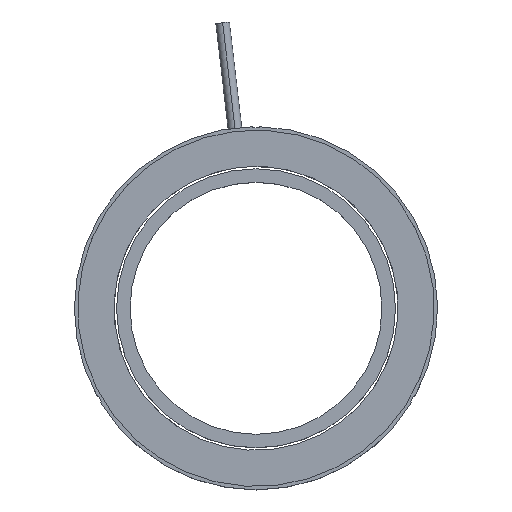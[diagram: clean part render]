
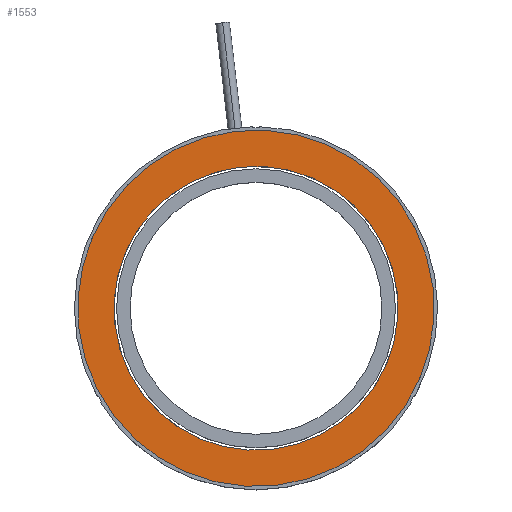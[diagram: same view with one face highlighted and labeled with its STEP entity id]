
A CAD part, top view. The second image highlights one B-rep face of the part: STEP entity #1553.
In plain terms, the highlighted planar face has unit normal (0, 0, 1).
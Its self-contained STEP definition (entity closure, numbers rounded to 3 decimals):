
#115 = EDGE_LOOP ( 'NONE', ( #3680, #1843 ) ) ;
#182 = EDGE_CURVE ( 'NONE', #2164, #2406, #1350, .T. ) ;
#222 = CIRCLE ( 'NONE', #395, 62.55 ) ;
#395 = AXIS2_PLACEMENT_3D ( 'NONE', #3751, #1688, #659 ) ;
#404 = CARTESIAN_POINT ( 'NONE',  ( 54.721, 17.485, 100.498 ) ) ;
#435 = CARTESIAN_POINT ( 'NONE',  ( 38.302, 157.576, 100.498 ) ) ;
#558 = EDGE_CURVE ( 'NONE', #1539, #2287, #1263, .T. ) ;
#659 = DIRECTION ( 'NONE',  ( -0.116, 0.993, 0. ) ) ;
#802 = ORIENTED_EDGE ( 'NONE', *, *, #1240, .T. ) ;
#1240 = EDGE_CURVE ( 'NONE', #2287, #1539, #222, .T. ) ;
#1263 = CIRCLE ( 'NONE', #4838, 62.55 ) ;
#1350 = CIRCLE ( 'NONE', #3350, 78.5 ) ;
#1539 = VERTEX_POINT ( 'NONE', #404 ) ;
#1553 = ADVANCED_FACE ( 'NONE', ( #1984, #2797 ), #1958, .F. ) ;
#1688 = DIRECTION ( 'NONE',  ( 0., 0., -1. ) ) ;
#1843 = ORIENTED_EDGE ( 'NONE', *, *, #3967, .F. ) ;
#1958 = PLANE ( 'NONE',  #3814 ) ;
#1984 = FACE_OUTER_BOUND ( 'NONE', #115, .T. ) ;
#2151 = CARTESIAN_POINT ( 'NONE',  ( 47.44, 79.61, 100.498 ) ) ;
#2164 = VERTEX_POINT ( 'NONE', #4328 ) ;
#2213 = DIRECTION ( 'NONE',  ( -0.116, 0.993, 0. ) ) ;
#2287 = VERTEX_POINT ( 'NONE', #3120 ) ;
#2367 = AXIS2_PLACEMENT_3D ( 'NONE', #2484, #3764, #4497 ) ;
#2406 = VERTEX_POINT ( 'NONE', #435 ) ;
#2484 = CARTESIAN_POINT ( 'NONE',  ( 47.44, 79.61, 100.498 ) ) ;
#2797 = FACE_BOUND ( 'NONE', #2879, .T. ) ;
#2879 = EDGE_LOOP ( 'NONE', ( #4513, #802 ) ) ;
#3076 = CARTESIAN_POINT ( 'NONE',  ( 47.44, 79.61, 100.498 ) ) ;
#3120 = CARTESIAN_POINT ( 'NONE',  ( 40.159, 141.735, 100.498 ) ) ;
#3138 = CARTESIAN_POINT ( 'NONE',  ( 47.44, 79.61, 100.498 ) ) ;
#3255 = DIRECTION ( 'NONE',  ( -0.116, 0.993, 0. ) ) ;
#3350 = AXIS2_PLACEMENT_3D ( 'NONE', #3076, #3495, #2213 ) ;
#3372 = CIRCLE ( 'NONE', #2367, 78.5 ) ;
#3495 = DIRECTION ( 'NONE',  ( 0., 0., -1. ) ) ;
#3558 = DIRECTION ( 'NONE',  ( 0., 0., -1. ) ) ;
#3584 = DIRECTION ( 'NONE',  ( -0.116, 0.993, 0. ) ) ;
#3680 = ORIENTED_EDGE ( 'NONE', *, *, #182, .F. ) ;
#3747 = DIRECTION ( 'NONE',  ( 0., 0., -1. ) ) ;
#3751 = CARTESIAN_POINT ( 'NONE',  ( 47.44, 79.61, 100.498 ) ) ;
#3764 = DIRECTION ( 'NONE',  ( 0., 0., -1. ) ) ;
#3814 = AXIS2_PLACEMENT_3D ( 'NONE', #3138, #3558, #3584 ) ;
#3967 = EDGE_CURVE ( 'NONE', #2406, #2164, #3372, .T. ) ;
#4328 = CARTESIAN_POINT ( 'NONE',  ( 56.578, 1.644, 100.498 ) ) ;
#4497 = DIRECTION ( 'NONE',  ( -0.116, 0.993, 0. ) ) ;
#4513 = ORIENTED_EDGE ( 'NONE', *, *, #558, .T. ) ;
#4838 = AXIS2_PLACEMENT_3D ( 'NONE', #2151, #3747, #3255 ) ;
